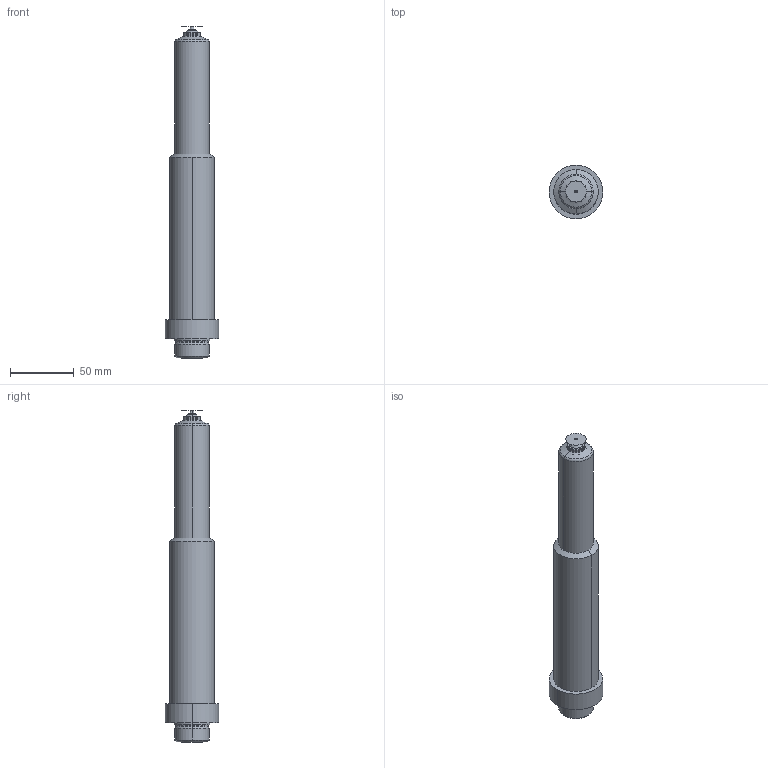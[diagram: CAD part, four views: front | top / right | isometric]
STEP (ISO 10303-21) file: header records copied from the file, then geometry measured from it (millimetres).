
FILE_DESCRIPTION (( 'STEP AP214' ), '1' );
FILE_NAME ('09EX12-03-245-VTW.step', '2023-04-19T08:36:51', ( '' ), ( '' ), 'SwSTEP 2.0', 'SolidWorks 2018', '' );
FILE_SCHEMA (( 'AUTOMOTIVE_DESIGN' ));
Length unit declared in the file: millimetre
Products named in the file (1): 09EX12-03-245-VTW
Bounding box: 42 x 42 x 260.45 mm (x, y, z)
Surface area: 90862.4 mm2 (no closed solid volume)
Topology: 0 solids, 5 shells, 530 faces, 1347 edges, 832 vertices
Faces by surface type: cylinder 211, plane 158, torus 83, cone 64, sphere 8, bspline 6
Entity records: 25898 total; most frequent: CARTESIAN_POINT 6994, DIRECTION 2893, ORIENTED_EDGE 2684, EDGE_CURVE 1343, AXIS2_PLACEMENT_3D 1153, VERTEX_POINT 830, CIRCLE 628, LINE 587
